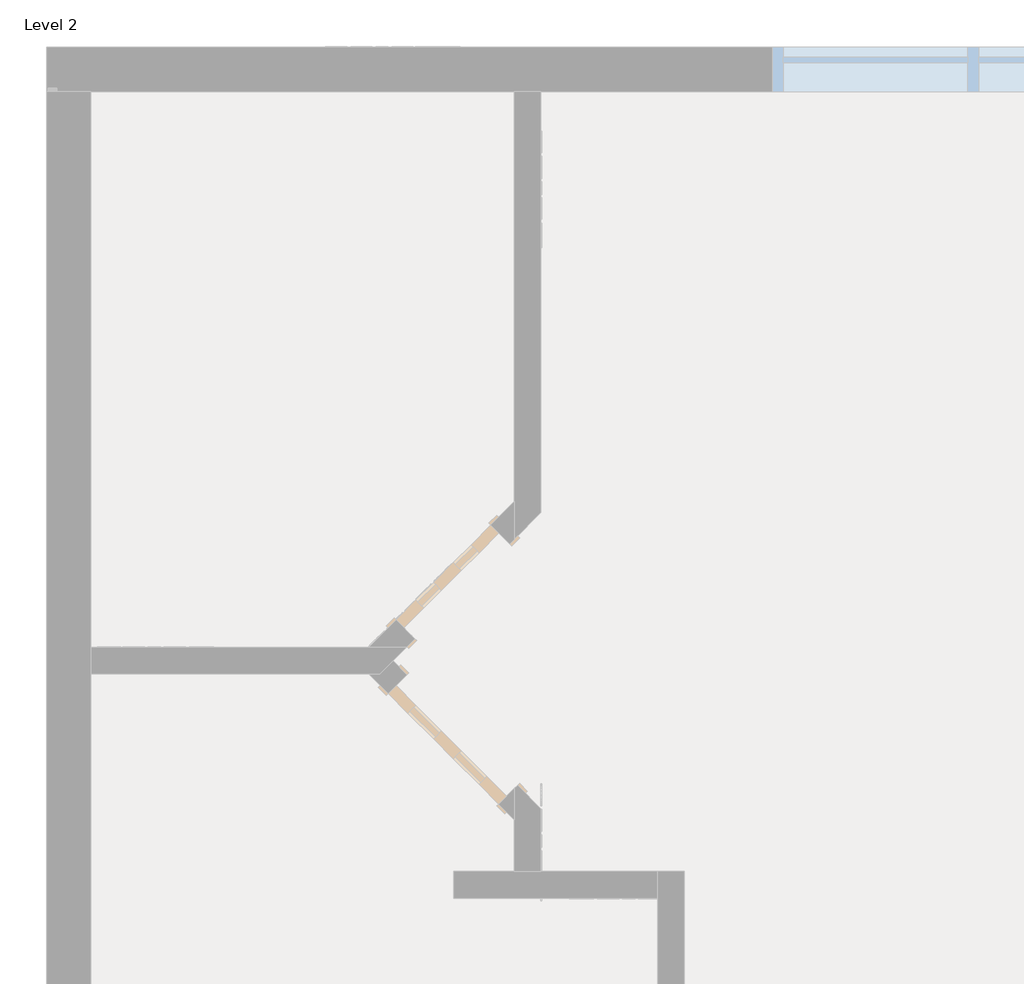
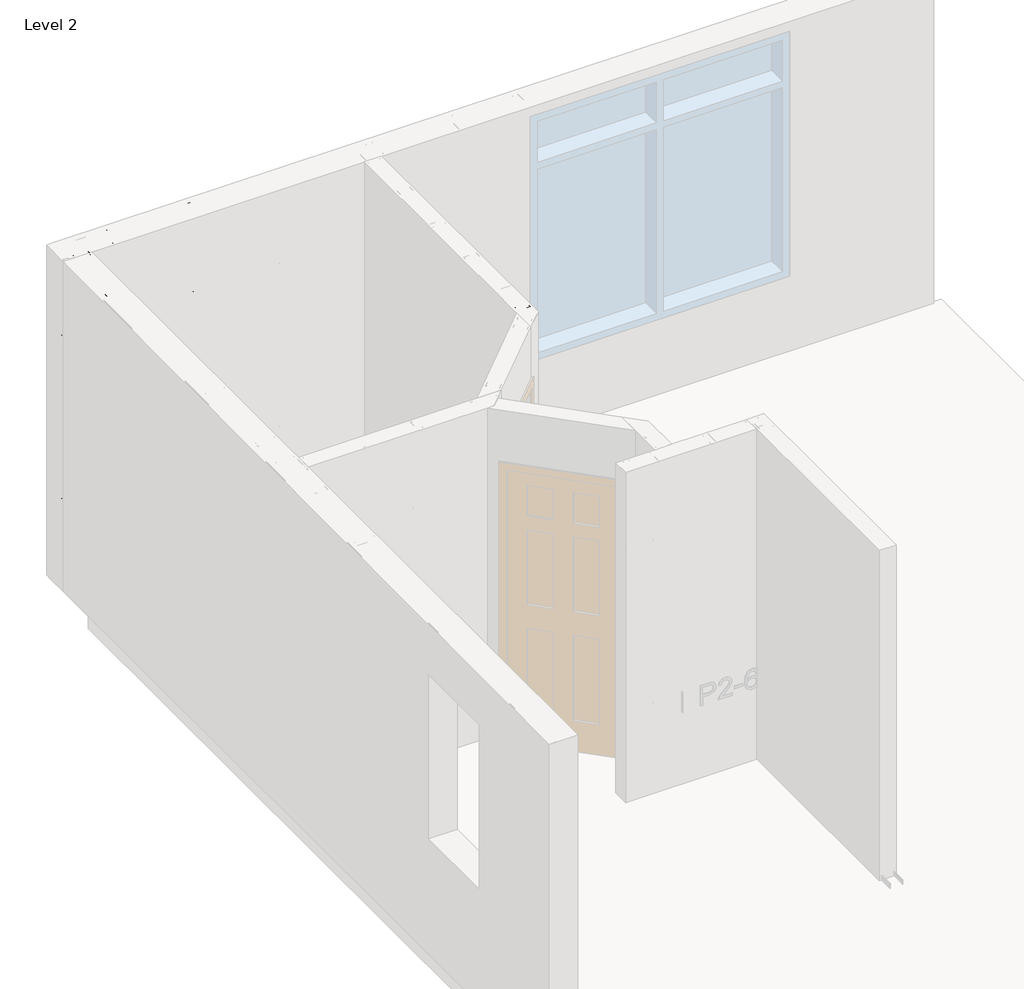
# One storey, part 34 of 46: 6 columns, 1 beam.
"""IFC4 building model written with IfcOpenShell, lengths in millimetres."""

from ifc_helpers import new_model, si_unit, point, frame, origin, place, context, project, spatial, circle_curve, ellipse_curve, trimmed, transform, mapped, element, save
from ifc_brep_helpers import plane_surface, extruded_surface, advanced_brep
from components import beam_350nf150_33_0b14d3bd

model = new_model("IFC4")

# Units and contexts
model_context = context("Model", 3, world=origin())
ifc_project = project(units=[si_unit("LENGTHUNIT", "METRE", prefix="MILLI")], contexts=[model_context])

# Site, building, storey
site = spatial("IfcSite", under=ifc_project)
building = spatial("IfcBuilding", under=site)
storey = spatial("IfcBuildingStorey", under=building, Name="Level 2", Elevation=3060.7)

# Beam
placement = place(None, origin())
beam_350nf150_33_shape = beam_350nf150_33_0b14d3bd(model_context)
element("IfcBeam", 1, ObjectType="BIMSF-SSMA-S : 350NF150-33", at=placement, inside=storey, context=model_context, shape_type="MappedRepresentation", body=[
    mapped(beam_350nf150_33_shape, transform((-13123.9913349, 12934.7090374, 3076.575), x_axis=(0.0, -1.0000000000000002, 0.0), y_axis=(0.0, 0.0, -1.0000000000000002), z_axis=(1.0000000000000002, 0.0, 0.0))),
])

# Columns
element("IfcColumn", 2, ObjectType="BIMSF-SSMA-S-Column : 350NF150-33", at=placement, inside=storey, context=model_context, shape_type="AdvancedBrep", body=[
    advanced_brep(
    [(-13079.5413349, 12004.0658538, 3061.5929687), (-13168.4413349, 12004.0658538, 3061.5929687), (-13168.4413349, 12042.1658538, 3061.5929687), (-13162.7838191, 12042.1658538, 3061.5929687), (-13162.7838191, 12041.283538, 3061.5929687), (-13167.5590191, 12041.283538, 3061.5929687), (-13167.5590191, 12004.9481695, 3061.5929687), (-13080.4236507, 12004.9481695, 3061.5929687), (-13080.4236507, 12041.283538, 3061.5929687), (-13085.1988507, 12041.283538, 3061.5929687), (-13085.1988507, 12042.1658538, 3061.5929687), (-13079.5413349, 12042.1658538, 3061.5929687), (-13079.5413349, 12004.0658538, 5523.6070313), (-13168.4413349, 12004.0658538, 5523.6070313), (-13136.6913349, 12004.0658538, 3671.1929688), (-13111.2913349, 12004.0658538, 3671.1929688), (-13136.6913349, 12004.0658538, 4890.3929688), (-13111.2913349, 12004.0658538, 4890.3929687), (-13168.4413349, 12042.1658538, 5523.6070313), (-13162.7838191, 12042.1658538, 5523.6070313), (-13162.7838191, 12041.283538, 5523.6070313), (-13167.5590191, 12041.283538, 5523.6070313), (-13167.5590191, 12004.9481695, 5523.6070313), (-13080.4236507, 12004.9481695, 5523.6070313), (-13111.2913349, 12004.9481695, 3671.1929688), (-13136.6913349, 12004.9481695, 3671.1929688), (-13111.2913349, 12004.9481695, 4890.3929688), (-13136.6913349, 12004.9481695, 4890.3929688), (-13080.4236507, 12041.283538, 5523.6070313), (-13085.1988507, 12041.283538, 5523.6070313), (-13085.1988507, 12042.1658538, 5523.6070313), (-13079.5413349, 12042.1658538, 5523.6070313)],
    [
        (0, 1),
        (1, 2),
        (2, 3),
        (3, 4),
        (4, 5),
        (5, 6),
        (6, 7),
        (7, 8),
        (8, 9),
        (9, 10),
        (10, 11),
        (11, 0),
        (0, 12),
        (12, 13),
        (13, 1),
        (14, 15, circle_curve(frame((-13123.9913349, 12004.0658538, 3671.1929688), z_axis=(0.0, 1.0, 0.0), x_axis=(-1.0, 0.0, 0.0)), 12.7)),
        (15, 14, circle_curve(frame((-13123.9913349, 12004.0658538, 3671.1929688), z_axis=(0.0, 1.0, 0.0), x_axis=(-1.0, 0.0, 0.0)), 12.7)),
        (16, 17, circle_curve(frame((-13123.9913349, 12004.0658538, 4890.3929687), z_axis=(0.0, 1.0, 0.0), x_axis=(-1.0, 0.0, 0.0)), 12.7)),
        (17, 16, circle_curve(frame((-13123.9913349, 12004.0658538, 4890.3929687), z_axis=(0.0, 1.0, 0.0), x_axis=(-1.0, 0.0, 0.0)), 12.7)),
        (13, 18),
        (18, 2),
        (18, 19),
        (19, 3),
        (19, 20),
        (20, 4),
        (20, 21),
        (21, 5),
        (21, 22),
        (22, 6),
        (22, 23),
        (23, 7),
        (24, 25, circle_curve(frame((-13123.9913349, 12004.9481695, 3671.1929687), z_axis=(0.0, -1.0, 0.0), x_axis=(-1.0, 0.0, 0.0)), 12.7)),
        (25, 24, circle_curve(frame((-13123.9913349, 12004.9481695, 3671.1929687), z_axis=(0.0, -1.0, 0.0), x_axis=(-1.0, 0.0, 0.0)), 12.7)),
        (26, 27, circle_curve(frame((-13123.9913349, 12004.9481695, 4890.3929687), z_axis=(0.0, -1.0, 0.0), x_axis=(-1.0, 0.0, 0.0)), 12.7)),
        (27, 26, circle_curve(frame((-13123.9913349, 12004.9481695, 4890.3929687), z_axis=(0.0, -1.0, 0.0), x_axis=(-1.0, 0.0, 0.0)), 12.7)),
        (23, 28),
        (28, 8),
        (28, 29),
        (29, 9),
        (29, 30),
        (30, 10),
        (30, 31),
        (31, 11),
        (31, 12),
        (24, 15),
        (14, 25),
        (26, 17),
        (16, 27),
    ],
    [
        plane_surface(frame((-13079.5413349, 12004.0658538, 3061.5929687), z_axis=(0.0, 0.0, -1.0), x_axis=(0.0, -1.0, 0.0))),
        plane_surface(frame((-13168.4413349, 12004.0658538, 5523.6070313), z_axis=(0.0, -1.0, 0.0), x_axis=(0.0, 0.0, -1.0))),
        plane_surface(frame((-13168.4413349, 12042.1658538, 5523.6070313), z_axis=(-1.0, 0.0, 0.0), x_axis=(0.0, 0.0, -1.0))),
        plane_surface(frame((-13162.7838191, 12042.1658538, 5523.6070313), z_axis=(0.0, 1.0, 0.0), x_axis=(0.0, 0.0, -1.0))),
        plane_surface(frame((-13162.7838191, 12041.283538, 5523.6070313), z_axis=(1.0, 0.0, 0.0), x_axis=(0.0, 0.0, -1.0))),
        plane_surface(frame((-13167.5590191, 12041.283538, 5523.6070313), z_axis=(0.0, -1.0, 0.0), x_axis=(0.0, 0.0, -1.0))),
        plane_surface(frame((-13167.5590191, 12004.9481695, 5523.6070313), z_axis=(1.0, 0.0, 0.0), x_axis=(0.0, 0.0, -1.0))),
        plane_surface(frame((-13080.4236507, 12004.9481695, 5523.6070313), z_axis=(0.0, 1.0, 0.0), x_axis=(0.0, 0.0, -1.0))),
        plane_surface(frame((-13080.4236507, 12041.283538, 5523.6070313), z_axis=(-1.0, 0.0, 0.0), x_axis=(0.0, 0.0, -1.0))),
        plane_surface(frame((-13085.1988507, 12041.283538, 5523.6070313), z_axis=(0.0, -1.0, 0.0), x_axis=(0.0, 0.0, -1.0))),
        plane_surface(frame((-13085.1988507, 12042.1658538, 5523.6070313), z_axis=(-1.0, 0.0, 0.0), x_axis=(0.0, 0.0, -1.0))),
        plane_surface(frame((-13079.5413349, 12042.1658538, 5523.6070313), z_axis=(0.0, 1.0, 0.0), x_axis=(0.0, 0.0, -1.0))),
        plane_surface(frame((-13079.5413349, 12004.0658538, 5523.6070313), z_axis=(1.0, 0.0, 0.0), x_axis=(0.0, 0.0, -1.0))),
        plane_surface(frame((-13079.5413349, 12004.0658538, 5523.6070313), z_axis=(0.0, 0.0, 1.0), x_axis=(0.0, 1.0, 0.0))),
        extruded_surface(trimmed(ellipse_curve(frame((-13123.9913349, 14485.1299163, 3671.1929688), z_axis=(0.0, -1.0, 0.0), x_axis=(-1.0, 0.0, 0.0)), 12.7, 12.7), [point((-13111.2913349, 14485.1299163, 3671.1929688))], [point((-13136.6913349, 14485.1299163, 3671.1929688))], True, "CARTESIAN"), (0.0, 4924.028125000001, 0.0), 4924.028125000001),
        extruded_surface(trimmed(ellipse_curve(frame((-13123.9913349, 14485.1299163, 3671.1929688), z_axis=(0.0, -1.0, 0.0), x_axis=(-1.0, 0.0, 0.0)), 12.7, 12.7), [point((-13136.6913349, 14485.1299163, 3671.1929688))], [point((-13111.2913349, 14485.1299163, 3671.1929688))], True, "CARTESIAN"), (0.0, 4924.028125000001, 0.0), 4924.028125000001),
        extruded_surface(trimmed(ellipse_curve(frame((-13123.9913349, 14485.1299163, 4890.3929687), z_axis=(0.0, -1.0, 0.0), x_axis=(-1.0, 0.0, 0.0)), 12.7, 12.7), [point((-13111.2913349, 14485.1299163, 4890.3929687))], [point((-13136.6913349, 14485.1299163, 4890.3929687))], True, "CARTESIAN"), (0.0, 4924.028125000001, 0.0), 4924.028125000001),
        extruded_surface(trimmed(ellipse_curve(frame((-13123.9913349, 14485.1299163, 4890.3929687), z_axis=(0.0, -1.0, 0.0), x_axis=(-1.0, 0.0, 0.0)), 12.7, 12.7), [point((-13136.6913349, 14485.1299163, 4890.3929687))], [point((-13111.2913349, 14485.1299163, 4890.3929687))], True, "CARTESIAN"), (0.0, 4924.028125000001, 0.0), 4924.028125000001),
    ],
    [
        (0, [[1, 2, 3, 4, 5, 6, 7, 8, 9, 10, 11, 12]]),
        (1, [[-1, 13, 14, 15], [16, 17], [18, 19]]),
        (2, [[-2, -15, 20, 21]]),
        (3, [[-3, -21, 22, 23]]),
        (4, [[-4, -23, 24, 25]]),
        (5, [[-5, -25, 26, 27]]),
        (6, [[-6, -27, 28, 29]]),
        (7, [[-7, -29, 30, 31], [32, 33], [34, 35]]),
        (8, [[-8, -31, 36, 37]]),
        (9, [[-9, -37, 38, 39]]),
        (10, [[-10, -39, 40, 41]]),
        (11, [[-11, -41, 42, 43]]),
        (12, [[-12, -43, 44, -13]]),
        (13, [[-14, -44, -42, -40, -38, -36, -30, -28, -26, -24, -22, -20]]),
        (14, [[45, -16, 46, -32]]),
        (15, [[-45, -33, -46, -17]]),
        (16, [[47, -18, 48, -34]]),
        (17, [[-47, -35, -48, -19]]),
    ],
),
])
element("IfcColumn", 3, ObjectType="BIMSF-SSMA-S-Column : 550NF150-43", at=placement, inside=storey, context=model_context, shape_type="AdvancedBrep", body=[
    advanced_brep(
    [(-15263.9413349, 13865.352221, 3061.5929687), (-15263.9413349, 14005.052221, 3061.5929687), (-15225.8413349, 14005.052221, 3061.5929687), (-15225.8413349, 13999.1273367, 3061.5929687), (-15226.9910191, 13999.1273367, 3061.5929687), (-15226.9910191, 14003.9025367, 3061.5929687), (-15262.7916507, 14003.9025367, 3061.5929687), (-15262.7916507, 13866.5019052, 3061.5929687), (-15226.9910191, 13866.5019052, 3061.5929687), (-15226.9910191, 13871.2771052, 3061.5929687), (-15225.8413349, 13871.2771052, 3061.5929687), (-15225.8413349, 13865.352221, 3061.5929687), (-15263.9413349, 13865.352221, 5523.6070313), (-15263.9413349, 14005.052221, 5523.6070313), (-15263.9413349, 13947.902221, 3671.1929688), (-15263.9413349, 13922.502221, 3671.1929688), (-15263.9413349, 13947.902221, 4890.3929687), (-15263.9413349, 13922.502221, 4890.3929687), (-15225.8413349, 14005.052221, 5523.6070313), (-15225.8413349, 13999.1273367, 5523.6070313), (-15226.9910191, 13999.1273367, 5523.6070313), (-15226.9910191, 14003.9025367, 5523.6070313), (-15262.7916507, 14003.9025367, 5523.6070313), (-15262.7916507, 13866.5019052, 5523.6070313), (-15262.7916507, 13922.502221, 3671.1929688), (-15262.7916507, 13947.902221, 3671.1929688), (-15262.7916507, 13922.502221, 4890.3929687), (-15262.7916507, 13947.902221, 4890.3929687), (-15226.9910191, 13866.5019052, 5523.6070313), (-15226.9910191, 13871.2771052, 5523.6070313), (-15225.8413349, 13871.2771052, 5523.6070313), (-15225.8413349, 13865.352221, 5523.6070313)],
    [
        (0, 1),
        (1, 2),
        (2, 3),
        (3, 4),
        (4, 5),
        (5, 6),
        (6, 7),
        (7, 8),
        (8, 9),
        (9, 10),
        (10, 11),
        (11, 0),
        (0, 12),
        (12, 13),
        (13, 1),
        (14, 15, circle_curve(frame((-15263.9413349, 13935.202221, 3671.1929688), z_axis=(1.0, 0.0, 0.0), x_axis=(0.0, 1.0, 0.0)), 12.7)),
        (15, 14, circle_curve(frame((-15263.9413349, 13935.202221, 3671.1929688), z_axis=(1.0, 0.0, 0.0), x_axis=(0.0, 1.0, 0.0)), 12.7)),
        (16, 17, circle_curve(frame((-15263.9413349, 13935.202221, 4890.3929687), z_axis=(1.0, 0.0, 0.0), x_axis=(0.0, 1.0, 0.0)), 12.7)),
        (17, 16, circle_curve(frame((-15263.9413349, 13935.202221, 4890.3929687), z_axis=(1.0, 0.0, 0.0), x_axis=(0.0, 1.0, 0.0)), 12.7)),
        (13, 18),
        (18, 2),
        (18, 19),
        (19, 3),
        (19, 20),
        (20, 4),
        (20, 21),
        (21, 5),
        (21, 22),
        (22, 6),
        (22, 23),
        (23, 7),
        (24, 25, circle_curve(frame((-15262.7916507, 13935.202221, 3671.1929687), z_axis=(-1.0, 0.0, 0.0), x_axis=(0.0, 1.0, 0.0)), 12.7)),
        (25, 24, circle_curve(frame((-15262.7916507, 13935.202221, 3671.1929687), z_axis=(-1.0, 0.0, 0.0), x_axis=(0.0, 1.0, 0.0)), 12.7)),
        (26, 27, circle_curve(frame((-15262.7916507, 13935.202221, 4890.3929687), z_axis=(-1.0, 0.0, 0.0), x_axis=(0.0, 1.0, 0.0)), 12.7)),
        (27, 26, circle_curve(frame((-15262.7916507, 13935.202221, 4890.3929687), z_axis=(-1.0, 0.0, 0.0), x_axis=(0.0, 1.0, 0.0)), 12.7)),
        (23, 28),
        (28, 8),
        (28, 29),
        (29, 9),
        (29, 30),
        (30, 10),
        (30, 31),
        (31, 11),
        (31, 12),
        (24, 15),
        (14, 25),
        (26, 17),
        (16, 27),
    ],
    [
        plane_surface(frame((-15263.9413349, 13865.352221, 3061.5929687), z_axis=(0.0, 0.0, -1.0), x_axis=(-1.0, 0.0, 0.0))),
        plane_surface(frame((-15263.9413349, 14005.052221, 5523.6070313), z_axis=(-1.0, 0.0, 0.0), x_axis=(0.0, 0.0, -1.0))),
        plane_surface(frame((-15225.8413349, 14005.052221, 5523.6070313), z_axis=(0.0, 1.0, 0.0), x_axis=(0.0, 0.0, -1.0))),
        plane_surface(frame((-15225.8413349, 13999.1273367, 5523.6070313), z_axis=(1.0, 0.0, 0.0), x_axis=(0.0, 0.0, -1.0))),
        plane_surface(frame((-15226.9910191, 13999.1273367, 5523.6070313), z_axis=(0.0, -1.0, 0.0), x_axis=(0.0, 0.0, -1.0))),
        plane_surface(frame((-15226.9910191, 14003.9025367, 5523.6070313), z_axis=(-1.0, 0.0, 0.0), x_axis=(0.0, 0.0, -1.0))),
        plane_surface(frame((-15262.7916507, 14003.9025367, 5523.6070313), z_axis=(0.0, -1.0, 0.0), x_axis=(0.0, 0.0, -1.0))),
        plane_surface(frame((-15262.7916507, 13866.5019052, 5523.6070313), z_axis=(1.0, 0.0, 0.0), x_axis=(0.0, 0.0, -1.0))),
        plane_surface(frame((-15226.9910191, 13866.5019052, 5523.6070313), z_axis=(0.0, 1.0, 0.0), x_axis=(0.0, 0.0, -1.0))),
        plane_surface(frame((-15226.9910191, 13871.2771052, 5523.6070313), z_axis=(-1.0, 0.0, 0.0), x_axis=(0.0, 0.0, -1.0))),
        plane_surface(frame((-15225.8413349, 13871.2771052, 5523.6070313), z_axis=(0.0, 1.0, 0.0), x_axis=(0.0, 0.0, -1.0))),
        plane_surface(frame((-15225.8413349, 13865.352221, 5523.6070313), z_axis=(1.0, 0.0, 0.0), x_axis=(0.0, 0.0, -1.0))),
        plane_surface(frame((-15263.9413349, 13865.352221, 5523.6070313), z_axis=(0.0, -1.0, 0.0), x_axis=(0.0, 0.0, -1.0))),
        plane_surface(frame((-15263.9413349, 13865.352221, 5523.6070313), z_axis=(0.0, 0.0, 1.0), x_axis=(1.0, 0.0, 0.0))),
        extruded_surface(trimmed(ellipse_curve(frame((-12782.8772724, 13935.202221, 3671.1929688), z_axis=(-1.0, 0.0, 0.0), x_axis=(0.0, 1.0, 0.0)), 12.7, 12.7), [point((-12782.8772724, 13922.502221, 3671.1929688))], [point((-12782.8772724, 13947.902221, 3671.1929688))], True, "CARTESIAN"), (4924.028124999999, 0.0, 0.0), 4924.028124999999),
        extruded_surface(trimmed(ellipse_curve(frame((-12782.8772724, 13935.202221, 3671.1929688), z_axis=(-1.0, 0.0, 0.0), x_axis=(0.0, 1.0, 0.0)), 12.7, 12.7), [point((-12782.8772724, 13947.902221, 3671.1929688))], [point((-12782.8772724, 13922.502221, 3671.1929688))], True, "CARTESIAN"), (4924.028124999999, 0.0, 0.0), 4924.028124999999),
        extruded_surface(trimmed(ellipse_curve(frame((-12782.8772724, 13935.202221, 4890.3929687), z_axis=(-1.0, 0.0, 0.0), x_axis=(0.0, 1.0, 0.0)), 12.7, 12.7), [point((-12782.8772724, 13922.502221, 4890.3929687))], [point((-12782.8772724, 13947.902221, 4890.3929687))], True, "CARTESIAN"), (4924.028124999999, 0.0, 0.0), 4924.028124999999),
        extruded_surface(trimmed(ellipse_curve(frame((-12782.8772724, 13935.202221, 4890.3929687), z_axis=(-1.0, 0.0, 0.0), x_axis=(0.0, 1.0, 0.0)), 12.7, 12.7), [point((-12782.8772724, 13947.902221, 4890.3929687))], [point((-12782.8772724, 13922.502221, 4890.3929687))], True, "CARTESIAN"), (4924.028124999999, 0.0, 0.0), 4924.028124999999),
    ],
    [
        (0, [[1, 2, 3, 4, 5, 6, 7, 8, 9, 10, 11, 12]]),
        (1, [[-1, 13, 14, 15], [16, 17], [18, 19]]),
        (2, [[-2, -15, 20, 21]]),
        (3, [[-3, -21, 22, 23]]),
        (4, [[-4, -23, 24, 25]]),
        (5, [[-5, -25, 26, 27]]),
        (6, [[-6, -27, 28, 29]]),
        (7, [[-7, -29, 30, 31], [32, 33], [34, 35]]),
        (8, [[-8, -31, 36, 37]]),
        (9, [[-9, -37, 38, 39]]),
        (10, [[-10, -39, 40, 41]]),
        (11, [[-11, -41, 42, 43]]),
        (12, [[-12, -43, 44, -13]]),
        (13, [[-14, -44, -42, -40, -38, -36, -30, -28, -26, -24, -22, -20]]),
        (14, [[45, -16, 46, -32]]),
        (15, [[-45, -33, -46, -17]]),
        (16, [[47, -18, 48, -34]]),
        (17, [[-47, -35, -48, -19]]),
    ],
),
])
element("IfcColumn", 4, ObjectType="BIMSF-SSMA-S-Column : 550NF150-43", at=placement, inside=storey, context=model_context, shape_type="AdvancedBrep", body=[
    advanced_brep(
    [(-14339.5202411, 13865.352221, 3061.5929687), (-14339.5202411, 14005.052221, 3061.5929687), (-14301.4202411, 14005.052221, 3061.5929687), (-14301.4202411, 13999.1273367, 3061.5929687), (-14302.5699253, 13999.1273367, 3061.5929687), (-14302.5699253, 14003.9025367, 3061.5929687), (-14338.3705569, 14003.9025367, 3061.5929687), (-14338.3705569, 13866.5019052, 3061.5929687), (-14302.5699253, 13866.5019052, 3061.5929687), (-14302.5699253, 13871.2771052, 3061.5929687), (-14301.4202411, 13871.2771052, 3061.5929687), (-14301.4202411, 13865.352221, 3061.5929687), (-14339.5202411, 13865.352221, 5523.6070313), (-14339.5202411, 14005.052221, 5523.6070313), (-14339.5202411, 13947.902221, 3671.1929688), (-14339.5202411, 13922.502221, 3671.1929688), (-14339.5202411, 13947.902221, 4890.3929687), (-14339.5202411, 13922.502221, 4890.3929687), (-14301.4202411, 14005.052221, 5523.6070313), (-14301.4202411, 13999.1273367, 5523.6070313), (-14302.5699253, 13999.1273367, 5523.6070313), (-14302.5699253, 14003.9025367, 5523.6070313), (-14338.3705569, 14003.9025367, 5523.6070313), (-14338.3705569, 13866.5019052, 5523.6070313), (-14338.3705569, 13922.502221, 3671.1929688), (-14338.3705569, 13947.902221, 3671.1929688), (-14338.3705569, 13922.502221, 4890.3929687), (-14338.3705569, 13947.902221, 4890.3929687), (-14302.5699253, 13866.5019052, 5523.6070313), (-14302.5699253, 13871.2771052, 5523.6070313), (-14301.4202411, 13871.2771052, 5523.6070313), (-14301.4202411, 13865.352221, 5523.6070313)],
    [
        (0, 1),
        (1, 2),
        (2, 3),
        (3, 4),
        (4, 5),
        (5, 6),
        (6, 7),
        (7, 8),
        (8, 9),
        (9, 10),
        (10, 11),
        (11, 0),
        (0, 12),
        (12, 13),
        (13, 1),
        (14, 15, circle_curve(frame((-14339.5202411, 13935.202221, 3671.1929687), z_axis=(1.0, 0.0, 0.0), x_axis=(0.0, 1.0, 0.0)), 12.7)),
        (15, 14, circle_curve(frame((-14339.5202411, 13935.202221, 3671.1929687), z_axis=(1.0, 0.0, 0.0), x_axis=(0.0, 1.0, 0.0)), 12.7)),
        (16, 17, circle_curve(frame((-14339.5202411, 13935.202221, 4890.3929687), z_axis=(1.0, 0.0, 0.0), x_axis=(0.0, 1.0, 0.0)), 12.7)),
        (17, 16, circle_curve(frame((-14339.5202411, 13935.202221, 4890.3929687), z_axis=(1.0, 0.0, 0.0), x_axis=(0.0, 1.0, 0.0)), 12.7)),
        (13, 18),
        (18, 2),
        (18, 19),
        (19, 3),
        (19, 20),
        (20, 4),
        (20, 21),
        (21, 5),
        (21, 22),
        (22, 6),
        (22, 23),
        (23, 7),
        (24, 25, circle_curve(frame((-14338.3705569, 13935.202221, 3671.1929687), z_axis=(-1.0, 0.0, 0.0), x_axis=(0.0, 1.0, 0.0)), 12.7)),
        (25, 24, circle_curve(frame((-14338.3705569, 13935.202221, 3671.1929687), z_axis=(-1.0, 0.0, 0.0), x_axis=(0.0, 1.0, 0.0)), 12.7)),
        (26, 27, circle_curve(frame((-14338.3705569, 13935.202221, 4890.3929687), z_axis=(-1.0, 0.0, 0.0), x_axis=(0.0, 1.0, 0.0)), 12.7)),
        (27, 26, circle_curve(frame((-14338.3705569, 13935.202221, 4890.3929687), z_axis=(-1.0, 0.0, 0.0), x_axis=(0.0, 1.0, 0.0)), 12.7)),
        (23, 28),
        (28, 8),
        (28, 29),
        (29, 9),
        (29, 30),
        (30, 10),
        (30, 31),
        (31, 11),
        (31, 12),
        (24, 15),
        (14, 25),
        (26, 17),
        (16, 27),
    ],
    [
        plane_surface(frame((-14339.5202411, 13865.352221, 3061.5929687), z_axis=(0.0, 0.0, -1.0), x_axis=(-1.0, 0.0, 0.0))),
        plane_surface(frame((-14339.5202411, 14005.052221, 5523.6070313), z_axis=(-1.0, 0.0, 0.0), x_axis=(0.0, 0.0, -1.0))),
        plane_surface(frame((-14301.4202411, 14005.052221, 5523.6070313), z_axis=(0.0, 1.0, 0.0), x_axis=(0.0, 0.0, -1.0))),
        plane_surface(frame((-14301.4202411, 13999.1273367, 5523.6070313), z_axis=(1.0, 0.0, 0.0), x_axis=(0.0, 0.0, -1.0))),
        plane_surface(frame((-14302.5699253, 13999.1273367, 5523.6070313), z_axis=(0.0, -1.0, 0.0), x_axis=(0.0, 0.0, -1.0))),
        plane_surface(frame((-14302.5699253, 14003.9025367, 5523.6070313), z_axis=(-1.0, 0.0, 0.0), x_axis=(0.0, 0.0, -1.0))),
        plane_surface(frame((-14338.3705569, 14003.9025367, 5523.6070313), z_axis=(0.0, -1.0, 0.0), x_axis=(0.0, 0.0, -1.0))),
        plane_surface(frame((-14338.3705569, 13866.5019052, 5523.6070313), z_axis=(1.0, 0.0, 0.0), x_axis=(0.0, 0.0, -1.0))),
        plane_surface(frame((-14302.5699253, 13866.5019052, 5523.6070313), z_axis=(0.0, 1.0, 0.0), x_axis=(0.0, 0.0, -1.0))),
        plane_surface(frame((-14302.5699253, 13871.2771052, 5523.6070313), z_axis=(-1.0, 0.0, 0.0), x_axis=(0.0, 0.0, -1.0))),
        plane_surface(frame((-14301.4202411, 13871.2771052, 5523.6070313), z_axis=(0.0, 1.0, 0.0), x_axis=(0.0, 0.0, -1.0))),
        plane_surface(frame((-14301.4202411, 13865.352221, 5523.6070313), z_axis=(1.0, 0.0, 0.0), x_axis=(0.0, 0.0, -1.0))),
        plane_surface(frame((-14339.5202411, 13865.352221, 5523.6070313), z_axis=(0.0, -1.0, 0.0), x_axis=(0.0, 0.0, -1.0))),
        plane_surface(frame((-14339.5202411, 13865.352221, 5523.6070313), z_axis=(0.0, 0.0, 1.0), x_axis=(1.0, 0.0, 0.0))),
        extruded_surface(trimmed(ellipse_curve(frame((-11858.4561786, 13935.202221, 3671.1929688), z_axis=(-1.0, 0.0, 0.0), x_axis=(0.0, 1.0, 0.0)), 12.7, 12.7), [point((-11858.4561786, 13922.502221, 3671.1929688))], [point((-11858.4561786, 13947.902221, 3671.1929688))], True, "CARTESIAN"), (4924.028125, 0.0, 0.0), 4924.028125),
        extruded_surface(trimmed(ellipse_curve(frame((-11858.4561786, 13935.202221, 3671.1929688), z_axis=(-1.0, 0.0, 0.0), x_axis=(0.0, 1.0, 0.0)), 12.7, 12.7), [point((-11858.4561786, 13947.902221, 3671.1929688))], [point((-11858.4561786, 13922.502221, 3671.1929688))], True, "CARTESIAN"), (4924.028125, 0.0, 0.0), 4924.028125),
        extruded_surface(trimmed(ellipse_curve(frame((-11858.4561786, 13935.202221, 4890.3929687), z_axis=(-1.0, 0.0, 0.0), x_axis=(0.0, 1.0, 0.0)), 12.7, 12.7), [point((-11858.4561786, 13922.502221, 4890.3929687))], [point((-11858.4561786, 13947.902221, 4890.3929687))], True, "CARTESIAN"), (4924.028125, 0.0, 0.0), 4924.028125),
        extruded_surface(trimmed(ellipse_curve(frame((-11858.4561786, 13935.202221, 4890.3929687), z_axis=(-1.0, 0.0, 0.0), x_axis=(0.0, 1.0, 0.0)), 12.7, 12.7), [point((-11858.4561786, 13947.902221, 4890.3929687))], [point((-11858.4561786, 13922.502221, 4890.3929687))], True, "CARTESIAN"), (4924.028125, 0.0, 0.0), 4924.028125),
    ],
    [
        (0, [[1, 2, 3, 4, 5, 6, 7, 8, 9, 10, 11, 12]]),
        (1, [[-1, 13, 14, 15], [16, 17], [18, 19]]),
        (2, [[-2, -15, 20, 21]]),
        (3, [[-3, -21, 22, 23]]),
        (4, [[-4, -23, 24, 25]]),
        (5, [[-5, -25, 26, 27]]),
        (6, [[-6, -27, 28, 29]]),
        (7, [[-7, -29, 30, 31], [32, 33], [34, 35]]),
        (8, [[-8, -31, 36, 37]]),
        (9, [[-9, -37, 38, 39]]),
        (10, [[-10, -39, 40, 41]]),
        (11, [[-11, -41, 42, 43]]),
        (12, [[-12, -43, 44, -13]]),
        (13, [[-14, -44, -42, -40, -38, -36, -30, -28, -26, -24, -22, -20]]),
        (14, [[45, -16, 46, -32]]),
        (15, [[-45, -33, -46, -17]]),
        (16, [[47, -18, 48, -34]]),
        (17, [[-47, -35, -48, -19]]),
    ],
),
])
element("IfcColumn", 5, ObjectType="BIMSF-SSMA-S-Column : 550NF150-43", at=placement, inside=storey, context=model_context, shape_type="AdvancedBrep", body=[
    advanced_brep(
    [(-14949.1202411, 13865.352221, 3061.5929687), (-14949.1202411, 14005.052221, 3061.5929687), (-14911.0202411, 14005.052221, 3061.5929687), (-14911.0202411, 13999.1273367, 3061.5929687), (-14912.1699253, 13999.1273367, 3061.5929687), (-14912.1699253, 14003.9025367, 3061.5929687), (-14947.9705569, 14003.9025367, 3061.5929687), (-14947.9705569, 13866.5019052, 3061.5929687), (-14912.1699253, 13866.5019052, 3061.5929687), (-14912.1699253, 13871.2771052, 3061.5929687), (-14911.0202411, 13871.2771052, 3061.5929687), (-14911.0202411, 13865.352221, 3061.5929687), (-14949.1202411, 13865.352221, 5523.6070313), (-14949.1202411, 14005.052221, 5523.6070313), (-14949.1202411, 13947.902221, 3671.1929688), (-14949.1202411, 13922.502221, 3671.1929688), (-14949.1202411, 13947.902221, 4890.3929687), (-14949.1202411, 13922.502221, 4890.3929687), (-14911.0202411, 14005.052221, 5523.6070313), (-14911.0202411, 13999.1273367, 5523.6070313), (-14912.1699253, 13999.1273367, 5523.6070313), (-14912.1699253, 14003.9025367, 5523.6070313), (-14947.9705569, 14003.9025367, 5523.6070313), (-14947.9705569, 13866.5019052, 5523.6070313), (-14947.9705569, 13922.502221, 3671.1929688), (-14947.9705569, 13947.902221, 3671.1929688), (-14947.9705569, 13922.502221, 4890.3929687), (-14947.9705569, 13947.902221, 4890.3929687), (-14912.1699253, 13866.5019052, 5523.6070313), (-14912.1699253, 13871.2771052, 5523.6070313), (-14911.0202411, 13871.2771052, 5523.6070313), (-14911.0202411, 13865.352221, 5523.6070313)],
    [
        (0, 1),
        (1, 2),
        (2, 3),
        (3, 4),
        (4, 5),
        (5, 6),
        (6, 7),
        (7, 8),
        (8, 9),
        (9, 10),
        (10, 11),
        (11, 0),
        (0, 12),
        (12, 13),
        (13, 1),
        (14, 15, circle_curve(frame((-14949.1202411, 13935.202221, 3671.1929687), z_axis=(1.0, 0.0, 0.0), x_axis=(0.0, 1.0, 0.0)), 12.7)),
        (15, 14, circle_curve(frame((-14949.1202411, 13935.202221, 3671.1929687), z_axis=(1.0, 0.0, 0.0), x_axis=(0.0, 1.0, 0.0)), 12.7)),
        (16, 17, circle_curve(frame((-14949.1202411, 13935.202221, 4890.3929687), z_axis=(1.0, 0.0, 0.0), x_axis=(0.0, 1.0, 0.0)), 12.7)),
        (17, 16, circle_curve(frame((-14949.1202411, 13935.202221, 4890.3929687), z_axis=(1.0, 0.0, 0.0), x_axis=(0.0, 1.0, 0.0)), 12.7)),
        (13, 18),
        (18, 2),
        (18, 19),
        (19, 3),
        (19, 20),
        (20, 4),
        (20, 21),
        (21, 5),
        (21, 22),
        (22, 6),
        (22, 23),
        (23, 7),
        (24, 25, circle_curve(frame((-14947.9705569, 13935.202221, 3671.1929687), z_axis=(-1.0, 0.0, 0.0), x_axis=(0.0, 1.0, 0.0)), 12.7)),
        (25, 24, circle_curve(frame((-14947.9705569, 13935.202221, 3671.1929687), z_axis=(-1.0, 0.0, 0.0), x_axis=(0.0, 1.0, 0.0)), 12.7)),
        (26, 27, circle_curve(frame((-14947.9705569, 13935.202221, 4890.3929687), z_axis=(-1.0, 0.0, 0.0), x_axis=(0.0, 1.0, 0.0)), 12.7)),
        (27, 26, circle_curve(frame((-14947.9705569, 13935.202221, 4890.3929687), z_axis=(-1.0, 0.0, 0.0), x_axis=(0.0, 1.0, 0.0)), 12.7)),
        (23, 28),
        (28, 8),
        (28, 29),
        (29, 9),
        (29, 30),
        (30, 10),
        (30, 31),
        (31, 11),
        (31, 12),
        (24, 15),
        (14, 25),
        (26, 17),
        (16, 27),
    ],
    [
        plane_surface(frame((-14949.1202411, 13865.352221, 3061.5929687), z_axis=(0.0, 0.0, -1.0), x_axis=(-1.0, 0.0, 0.0))),
        plane_surface(frame((-14949.1202411, 14005.052221, 5523.6070313), z_axis=(-1.0, 0.0, 0.0), x_axis=(0.0, 0.0, -1.0))),
        plane_surface(frame((-14911.0202411, 14005.052221, 5523.6070313), z_axis=(0.0, 1.0, 0.0), x_axis=(0.0, 0.0, -1.0))),
        plane_surface(frame((-14911.0202411, 13999.1273367, 5523.6070313), z_axis=(1.0, 0.0, 0.0), x_axis=(0.0, 0.0, -1.0))),
        plane_surface(frame((-14912.1699253, 13999.1273367, 5523.6070313), z_axis=(0.0, -1.0, 0.0), x_axis=(0.0, 0.0, -1.0))),
        plane_surface(frame((-14912.1699253, 14003.9025367, 5523.6070313), z_axis=(-1.0, 0.0, 0.0), x_axis=(0.0, 0.0, -1.0))),
        plane_surface(frame((-14947.9705569, 14003.9025367, 5523.6070313), z_axis=(0.0, -1.0, 0.0), x_axis=(0.0, 0.0, -1.0))),
        plane_surface(frame((-14947.9705569, 13866.5019052, 5523.6070313), z_axis=(1.0, 0.0, 0.0), x_axis=(0.0, 0.0, -1.0))),
        plane_surface(frame((-14912.1699253, 13866.5019052, 5523.6070313), z_axis=(0.0, 1.0, 0.0), x_axis=(0.0, 0.0, -1.0))),
        plane_surface(frame((-14912.1699253, 13871.2771052, 5523.6070313), z_axis=(-1.0, 0.0, 0.0), x_axis=(0.0, 0.0, -1.0))),
        plane_surface(frame((-14911.0202411, 13871.2771052, 5523.6070313), z_axis=(0.0, 1.0, 0.0), x_axis=(0.0, 0.0, -1.0))),
        plane_surface(frame((-14911.0202411, 13865.352221, 5523.6070313), z_axis=(1.0, 0.0, 0.0), x_axis=(0.0, 0.0, -1.0))),
        plane_surface(frame((-14949.1202411, 13865.352221, 5523.6070313), z_axis=(0.0, -1.0, 0.0), x_axis=(0.0, 0.0, -1.0))),
        plane_surface(frame((-14949.1202411, 13865.352221, 5523.6070313), z_axis=(0.0, 0.0, 1.0), x_axis=(1.0, 0.0, 0.0))),
        extruded_surface(trimmed(ellipse_curve(frame((-12468.0561786, 13935.202221, 3671.1929688), z_axis=(-1.0, 0.0, 0.0), x_axis=(0.0, 1.0, 0.0)), 12.7, 12.7), [point((-12468.0561786, 13922.502221, 3671.1929688))], [point((-12468.0561786, 13947.902221, 3671.1929688))], True, "CARTESIAN"), (4924.028125, 0.0, 0.0), 4924.028125),
        extruded_surface(trimmed(ellipse_curve(frame((-12468.0561786, 13935.202221, 3671.1929688), z_axis=(-1.0, 0.0, 0.0), x_axis=(0.0, 1.0, 0.0)), 12.7, 12.7), [point((-12468.0561786, 13947.902221, 3671.1929688))], [point((-12468.0561786, 13922.502221, 3671.1929688))], True, "CARTESIAN"), (4924.028125, 0.0, 0.0), 4924.028125),
        extruded_surface(trimmed(ellipse_curve(frame((-12468.0561786, 13935.202221, 4890.3929687), z_axis=(-1.0, 0.0, 0.0), x_axis=(0.0, 1.0, 0.0)), 12.7, 12.7), [point((-12468.0561786, 13922.502221, 4890.3929687))], [point((-12468.0561786, 13947.902221, 4890.3929687))], True, "CARTESIAN"), (4924.028125, 0.0, 0.0), 4924.028125),
        extruded_surface(trimmed(ellipse_curve(frame((-12468.0561786, 13935.202221, 4890.3929687), z_axis=(-1.0, 0.0, 0.0), x_axis=(0.0, 1.0, 0.0)), 12.7, 12.7), [point((-12468.0561786, 13947.902221, 4890.3929687))], [point((-12468.0561786, 13922.502221, 4890.3929687))], True, "CARTESIAN"), (4924.028125, 0.0, 0.0), 4924.028125),
    ],
    [
        (0, [[1, 2, 3, 4, 5, 6, 7, 8, 9, 10, 11, 12]]),
        (1, [[-1, 13, 14, 15], [16, 17], [18, 19]]),
        (2, [[-2, -15, 20, 21]]),
        (3, [[-3, -21, 22, 23]]),
        (4, [[-4, -23, 24, 25]]),
        (5, [[-5, -25, 26, 27]]),
        (6, [[-6, -27, 28, 29]]),
        (7, [[-7, -29, 30, 31], [32, 33], [34, 35]]),
        (8, [[-8, -31, 36, 37]]),
        (9, [[-9, -37, 38, 39]]),
        (10, [[-10, -39, 40, 41]]),
        (11, [[-11, -41, 42, 43]]),
        (12, [[-12, -43, 44, -13]]),
        (13, [[-14, -44, -42, -40, -38, -36, -30, -28, -26, -24, -22, -20]]),
        (14, [[45, -16, 46, -32]]),
        (15, [[-45, -33, -46, -17]]),
        (16, [[47, -18, 48, -34]]),
        (17, [[-47, -35, -48, -19]]),
    ],
),
])
element("IfcColumn", 6, ObjectType="BIMSF-SSMA-S-Column : 550NF150-43", at=placement, inside=storey, context=model_context, shape_type="AdvancedBrep", body=[
    advanced_brep(
    [(-15263.9413349, 13865.352221, 3061.5929687), (-15124.2413349, 13865.352221, 3061.5929687), (-15124.2413349, 13827.252221, 3061.5929687), (-15130.1662191, 13827.252221, 3061.5929687), (-15130.1662191, 13828.4019052, 3061.5929687), (-15125.3910191, 13828.4019052, 3061.5929687), (-15125.3910191, 13864.2025367, 3061.5929687), (-15262.7916507, 13864.2025367, 3061.5929687), (-15262.7916507, 13828.4019052, 3061.5929687), (-15258.0164507, 13828.4019052, 3061.5929687), (-15258.0164507, 13827.252221, 3061.5929687), (-15263.9413349, 13827.252221, 3061.5929687), (-15263.9413349, 13865.352221, 5523.6070313), (-15124.2413349, 13865.352221, 5523.6070313), (-15181.3913349, 13865.352221, 3671.1929688), (-15206.7913349, 13865.352221, 3671.1929688), (-15181.3913349, 13865.352221, 4890.3929687), (-15206.7913349, 13865.352221, 4890.3929687), (-15124.2413349, 13827.252221, 5523.6070313), (-15130.1662191, 13827.252221, 5523.6070313), (-15130.1662191, 13828.4019052, 5523.6070313), (-15125.3910191, 13828.4019052, 5523.6070313), (-15125.3910191, 13864.2025367, 5523.6070313), (-15262.7916507, 13864.2025367, 5523.6070313), (-15206.7913349, 13864.2025367, 3671.1929688), (-15181.3913349, 13864.2025367, 3671.1929688), (-15206.7913349, 13864.2025367, 4890.3929687), (-15181.3913349, 13864.2025367, 4890.3929687), (-15262.7916507, 13828.4019052, 5523.6070313), (-15258.0164507, 13828.4019052, 5523.6070313), (-15258.0164507, 13827.252221, 5523.6070313), (-15263.9413349, 13827.252221, 5523.6070313)],
    [
        (0, 1),
        (1, 2),
        (2, 3),
        (3, 4),
        (4, 5),
        (5, 6),
        (6, 7),
        (7, 8),
        (8, 9),
        (9, 10),
        (10, 11),
        (11, 0),
        (0, 12),
        (12, 13),
        (13, 1),
        (14, 15, circle_curve(frame((-15194.0913349, 13865.352221, 3671.1929688), z_axis=(0.0, -1.0, 0.0), x_axis=(1.0, 0.0, 0.0)), 12.7)),
        (15, 14, circle_curve(frame((-15194.0913349, 13865.352221, 3671.1929688), z_axis=(0.0, -1.0, 0.0), x_axis=(1.0, 0.0, 0.0)), 12.7)),
        (16, 17, circle_curve(frame((-15194.0913349, 13865.352221, 4890.3929687), z_axis=(0.0, -1.0, 0.0), x_axis=(1.0, 0.0, 0.0)), 12.7)),
        (17, 16, circle_curve(frame((-15194.0913349, 13865.352221, 4890.3929687), z_axis=(0.0, -1.0, 0.0), x_axis=(1.0, 0.0, 0.0)), 12.7)),
        (13, 18),
        (18, 2),
        (18, 19),
        (19, 3),
        (19, 20),
        (20, 4),
        (20, 21),
        (21, 5),
        (21, 22),
        (22, 6),
        (22, 23),
        (23, 7),
        (24, 25, circle_curve(frame((-15194.0913349, 13864.2025367, 3671.1929687), z_axis=(0.0, 1.0, 0.0), x_axis=(1.0, 0.0, 0.0)), 12.7)),
        (25, 24, circle_curve(frame((-15194.0913349, 13864.2025367, 3671.1929687), z_axis=(0.0, 1.0, 0.0), x_axis=(1.0, 0.0, 0.0)), 12.7)),
        (26, 27, circle_curve(frame((-15194.0913349, 13864.2025367, 4890.3929687), z_axis=(0.0, 1.0, 0.0), x_axis=(1.0, 0.0, 0.0)), 12.7)),
        (27, 26, circle_curve(frame((-15194.0913349, 13864.2025367, 4890.3929687), z_axis=(0.0, 1.0, 0.0), x_axis=(1.0, 0.0, 0.0)), 12.7)),
        (23, 28),
        (28, 8),
        (28, 29),
        (29, 9),
        (29, 30),
        (30, 10),
        (30, 31),
        (31, 11),
        (31, 12),
        (24, 15),
        (14, 25),
        (26, 17),
        (16, 27),
    ],
    [
        plane_surface(frame((-15263.9413349, 13865.352221, 3061.5929687), z_axis=(0.0, 0.0, -1.0), x_axis=(0.0, 1.0, 0.0))),
        plane_surface(frame((-15124.2413349, 13865.352221, 5523.6070313), z_axis=(0.0, 1.0, 0.0), x_axis=(0.0, 0.0, -1.0))),
        plane_surface(frame((-15124.2413349, 13827.252221, 5523.6070313), z_axis=(1.0, 0.0, 0.0), x_axis=(0.0, 0.0, -1.0))),
        plane_surface(frame((-15130.1662191, 13827.252221, 5523.6070313), z_axis=(0.0, -1.0, 0.0), x_axis=(0.0, 0.0, -1.0))),
        plane_surface(frame((-15130.1662191, 13828.4019052, 5523.6070313), z_axis=(-1.0, 0.0, 0.0), x_axis=(0.0, 0.0, -1.0))),
        plane_surface(frame((-15125.3910191, 13828.4019052, 5523.6070313), z_axis=(0.0, 1.0, 0.0), x_axis=(0.0, 0.0, -1.0))),
        plane_surface(frame((-15125.3910191, 13864.2025367, 5523.6070313), z_axis=(-1.0, 0.0, 0.0), x_axis=(0.0, 0.0, -1.0))),
        plane_surface(frame((-15262.7916507, 13864.2025367, 5523.6070313), z_axis=(0.0, -1.0, 0.0), x_axis=(0.0, 0.0, -1.0))),
        plane_surface(frame((-15262.7916507, 13828.4019052, 5523.6070313), z_axis=(1.0, 0.0, 0.0), x_axis=(0.0, 0.0, -1.0))),
        plane_surface(frame((-15258.0164507, 13828.4019052, 5523.6070313), z_axis=(0.0, 1.0, 0.0), x_axis=(0.0, 0.0, -1.0))),
        plane_surface(frame((-15258.0164507, 13827.252221, 5523.6070313), z_axis=(1.0, 0.0, 0.0), x_axis=(0.0, 0.0, -1.0))),
        plane_surface(frame((-15263.9413349, 13827.252221, 5523.6070313), z_axis=(0.0, -1.0, 0.0), x_axis=(0.0, 0.0, -1.0))),
        plane_surface(frame((-15263.9413349, 13865.352221, 5523.6070313), z_axis=(-1.0, 0.0, 0.0), x_axis=(0.0, 0.0, -1.0))),
        plane_surface(frame((-15263.9413349, 13865.352221, 5523.6070313), z_axis=(0.0, 0.0, 1.0), x_axis=(0.0, -1.0, 0.0))),
        extruded_surface(trimmed(ellipse_curve(frame((-15194.0913349, 11384.2881585, 3671.1929688), z_axis=(0.0, 1.0, 0.0), x_axis=(1.0, 0.0, 0.0)), 12.7, 12.7), [point((-15206.7913349, 11384.2881585, 3671.1929688))], [point((-15181.3913349, 11384.2881585, 3671.1929688))], True, "CARTESIAN"), (0.0, -4924.028125, 0.0), 4924.028125),
        extruded_surface(trimmed(ellipse_curve(frame((-15194.0913349, 11384.2881585, 3671.1929688), z_axis=(0.0, 1.0, 0.0), x_axis=(1.0, 0.0, 0.0)), 12.7, 12.7), [point((-15181.3913349, 11384.2881585, 3671.1929688))], [point((-15206.7913349, 11384.2881585, 3671.1929688))], True, "CARTESIAN"), (0.0, -4924.028125, 0.0), 4924.028125),
        extruded_surface(trimmed(ellipse_curve(frame((-15194.0913349, 11384.2881585, 4890.3929687), z_axis=(0.0, 1.0, 0.0), x_axis=(1.0, 0.0, 0.0)), 12.7, 12.7), [point((-15206.7913349, 11384.2881585, 4890.3929687))], [point((-15181.3913349, 11384.2881585, 4890.3929687))], True, "CARTESIAN"), (0.0, -4924.028125, 0.0), 4924.028125),
        extruded_surface(trimmed(ellipse_curve(frame((-15194.0913349, 11384.2881585, 4890.3929687), z_axis=(0.0, 1.0, 0.0), x_axis=(1.0, 0.0, 0.0)), 12.7, 12.7), [point((-15181.3913349, 11384.2881585, 4890.3929687))], [point((-15206.7913349, 11384.2881585, 4890.3929687))], True, "CARTESIAN"), (0.0, -4924.028125, 0.0), 4924.028125),
    ],
    [
        (0, [[1, 2, 3, 4, 5, 6, 7, 8, 9, 10, 11, 12]]),
        (1, [[-1, 13, 14, 15], [16, 17], [18, 19]]),
        (2, [[-2, -15, 20, 21]]),
        (3, [[-3, -21, 22, 23]]),
        (4, [[-4, -23, 24, 25]]),
        (5, [[-5, -25, 26, 27]]),
        (6, [[-6, -27, 28, 29]]),
        (7, [[-7, -29, 30, 31], [32, 33], [34, 35]]),
        (8, [[-8, -31, 36, 37]]),
        (9, [[-9, -37, 38, 39]]),
        (10, [[-10, -39, 40, 41]]),
        (11, [[-11, -41, 42, 43]]),
        (12, [[-12, -43, 44, -13]]),
        (13, [[-14, -44, -42, -40, -38, -36, -30, -28, -26, -24, -22, -20]]),
        (14, [[45, -16, 46, -32]]),
        (15, [[-45, -33, -46, -17]]),
        (16, [[47, -18, 48, -34]]),
        (17, [[-47, -35, -48, -19]]),
    ],
),
])
element("IfcColumn", 7, ObjectType="BIMSF-SSMA-S-Column : 550NF150-43", at=placement, inside=storey, context=model_context, shape_type="AdvancedBrep", body=[
    advanced_brep(
    [(-15124.2413349, 13375.0627774, 3061.5929687), (-15263.9413349, 13375.0627774, 3061.5929687), (-15263.9413349, 13413.1627774, 3061.5929687), (-15258.0164507, 13413.1627774, 3061.5929687), (-15258.0164507, 13412.0130931, 3061.5929687), (-15262.7916507, 13412.0130931, 3061.5929687), (-15262.7916507, 13376.2124616, 3061.5929687), (-15125.3910191, 13376.2124616, 3061.5929687), (-15125.3910191, 13412.0130931, 3061.5929687), (-15130.1662191, 13412.0130931, 3061.5929687), (-15130.1662191, 13413.1627774, 3061.5929687), (-15124.2413349, 13413.1627774, 3061.5929687), (-15124.2413349, 13375.0627774, 5523.6070313), (-15263.9413349, 13375.0627774, 5523.6070313), (-15206.7913349, 13375.0627774, 3671.1929688), (-15181.3913349, 13375.0627774, 3671.1929688), (-15206.7913349, 13375.0627774, 4890.3929688), (-15181.3913349, 13375.0627774, 4890.3929688), (-15263.9413349, 13413.1627774, 5523.6070313), (-15258.0164507, 13413.1627774, 5523.6070313), (-15258.0164507, 13412.0130931, 5523.6070313), (-15262.7916507, 13412.0130931, 5523.6070313), (-15262.7916507, 13376.2124616, 5523.6070313), (-15125.3910191, 13376.2124616, 5523.6070313), (-15181.3913349, 13376.2124616, 3671.1929688), (-15206.7913349, 13376.2124616, 3671.1929688), (-15181.3913349, 13376.2124616, 4890.3929688), (-15206.7913349, 13376.2124616, 4890.3929688), (-15125.3910191, 13412.0130931, 5523.6070313), (-15130.1662191, 13412.0130931, 5523.6070313), (-15130.1662191, 13413.1627774, 5523.6070313), (-15124.2413349, 13413.1627774, 5523.6070313)],
    [
        (0, 1),
        (1, 2),
        (2, 3),
        (3, 4),
        (4, 5),
        (5, 6),
        (6, 7),
        (7, 8),
        (8, 9),
        (9, 10),
        (10, 11),
        (11, 0),
        (0, 12),
        (12, 13),
        (13, 1),
        (14, 15, circle_curve(frame((-15194.0913349, 13375.0627774, 3671.1929687), z_axis=(0.0, 1.0, 0.0), x_axis=(-1.0, 0.0, 0.0)), 12.7)),
        (15, 14, circle_curve(frame((-15194.0913349, 13375.0627774, 3671.1929687), z_axis=(0.0, 1.0, 0.0), x_axis=(-1.0, 0.0, 0.0)), 12.7)),
        (16, 17, circle_curve(frame((-15194.0913349, 13375.0627774, 4890.3929687), z_axis=(0.0, 1.0, 0.0), x_axis=(-1.0, 0.0, 0.0)), 12.7)),
        (17, 16, circle_curve(frame((-15194.0913349, 13375.0627774, 4890.3929687), z_axis=(0.0, 1.0, 0.0), x_axis=(-1.0, 0.0, 0.0)), 12.7)),
        (13, 18),
        (18, 2),
        (18, 19),
        (19, 3),
        (19, 20),
        (20, 4),
        (20, 21),
        (21, 5),
        (21, 22),
        (22, 6),
        (22, 23),
        (23, 7),
        (24, 25, circle_curve(frame((-15194.0913349, 13376.2124616, 3671.1929687), z_axis=(0.0, -1.0, 0.0), x_axis=(-1.0, 0.0, 0.0)), 12.7)),
        (25, 24, circle_curve(frame((-15194.0913349, 13376.2124616, 3671.1929687), z_axis=(0.0, -1.0, 0.0), x_axis=(-1.0, 0.0, 0.0)), 12.7)),
        (26, 27, circle_curve(frame((-15194.0913349, 13376.2124616, 4890.3929687), z_axis=(0.0, -1.0, 0.0), x_axis=(-1.0, 0.0, 0.0)), 12.7)),
        (27, 26, circle_curve(frame((-15194.0913349, 13376.2124616, 4890.3929687), z_axis=(0.0, -1.0, 0.0), x_axis=(-1.0, 0.0, 0.0)), 12.7)),
        (23, 28),
        (28, 8),
        (28, 29),
        (29, 9),
        (29, 30),
        (30, 10),
        (30, 31),
        (31, 11),
        (31, 12),
        (24, 15),
        (14, 25),
        (26, 17),
        (16, 27),
    ],
    [
        plane_surface(frame((-15124.2413349, 13375.0627774, 3061.5929687), z_axis=(0.0, 0.0, -1.0), x_axis=(0.0, -1.0, 0.0))),
        plane_surface(frame((-15263.9413349, 13375.0627774, 5523.6070313), z_axis=(0.0, -1.0, 0.0), x_axis=(0.0, 0.0, -1.0))),
        plane_surface(frame((-15263.9413349, 13413.1627774, 5523.6070313), z_axis=(-1.0, 0.0, 0.0), x_axis=(0.0, 0.0, -1.0))),
        plane_surface(frame((-15258.0164507, 13413.1627774, 5523.6070313), z_axis=(0.0, 1.0, 0.0), x_axis=(0.0, 0.0, -1.0))),
        plane_surface(frame((-15258.0164507, 13412.0130931, 5523.6070313), z_axis=(1.0, 0.0, 0.0), x_axis=(0.0, 0.0, -1.0))),
        plane_surface(frame((-15262.7916507, 13412.0130931, 5523.6070313), z_axis=(0.0, -1.0, 0.0), x_axis=(0.0, 0.0, -1.0))),
        plane_surface(frame((-15262.7916507, 13376.2124616, 5523.6070313), z_axis=(1.0, 0.0, 0.0), x_axis=(0.0, 0.0, -1.0))),
        plane_surface(frame((-15125.3910191, 13376.2124616, 5523.6070313), z_axis=(0.0, 1.0, 0.0), x_axis=(0.0, 0.0, -1.0))),
        plane_surface(frame((-15125.3910191, 13412.0130931, 5523.6070313), z_axis=(-1.0, 0.0, 0.0), x_axis=(0.0, 0.0, -1.0))),
        plane_surface(frame((-15130.1662191, 13412.0130931, 5523.6070313), z_axis=(0.0, -1.0, 0.0), x_axis=(0.0, 0.0, -1.0))),
        plane_surface(frame((-15130.1662191, 13413.1627774, 5523.6070313), z_axis=(-1.0, 0.0, 0.0), x_axis=(0.0, 0.0, -1.0))),
        plane_surface(frame((-15124.2413349, 13413.1627774, 5523.6070313), z_axis=(0.0, 1.0, 0.0), x_axis=(0.0, 0.0, -1.0))),
        plane_surface(frame((-15124.2413349, 13375.0627774, 5523.6070313), z_axis=(1.0, 0.0, 0.0), x_axis=(0.0, 0.0, -1.0))),
        plane_surface(frame((-15124.2413349, 13375.0627774, 5523.6070313), z_axis=(0.0, 0.0, 1.0), x_axis=(0.0, 1.0, 0.0))),
        extruded_surface(trimmed(ellipse_curve(frame((-15194.0913349, 15856.1268399, 3671.1929688), z_axis=(0.0, -1.0, 0.0), x_axis=(-1.0, 0.0, 0.0)), 12.7, 12.7), [point((-15181.3913349, 15856.1268399, 3671.1929688))], [point((-15206.7913349, 15856.1268399, 3671.1929688))], True, "CARTESIAN"), (0.0, 4924.028125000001, 0.0), 4924.028125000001),
        extruded_surface(trimmed(ellipse_curve(frame((-15194.0913349, 15856.1268399, 3671.1929688), z_axis=(0.0, -1.0, 0.0), x_axis=(-1.0, 0.0, 0.0)), 12.7, 12.7), [point((-15206.7913349, 15856.1268399, 3671.1929688))], [point((-15181.3913349, 15856.1268399, 3671.1929688))], True, "CARTESIAN"), (0.0, 4924.028125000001, 0.0), 4924.028125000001),
        extruded_surface(trimmed(ellipse_curve(frame((-15194.0913349, 15856.1268399, 4890.3929687), z_axis=(0.0, -1.0, 0.0), x_axis=(-1.0, 0.0, 0.0)), 12.7, 12.7), [point((-15181.3913349, 15856.1268399, 4890.3929687))], [point((-15206.7913349, 15856.1268399, 4890.3929687))], True, "CARTESIAN"), (0.0, 4924.028125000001, 0.0), 4924.028125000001),
        extruded_surface(trimmed(ellipse_curve(frame((-15194.0913349, 15856.1268399, 4890.3929687), z_axis=(0.0, -1.0, 0.0), x_axis=(-1.0, 0.0, 0.0)), 12.7, 12.7), [point((-15206.7913349, 15856.1268399, 4890.3929687))], [point((-15181.3913349, 15856.1268399, 4890.3929687))], True, "CARTESIAN"), (0.0, 4924.028125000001, 0.0), 4924.028125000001),
    ],
    [
        (0, [[1, 2, 3, 4, 5, 6, 7, 8, 9, 10, 11, 12]]),
        (1, [[-1, 13, 14, 15], [16, 17], [18, 19]]),
        (2, [[-2, -15, 20, 21]]),
        (3, [[-3, -21, 22, 23]]),
        (4, [[-4, -23, 24, 25]]),
        (5, [[-5, -25, 26, 27]]),
        (6, [[-6, -27, 28, 29]]),
        (7, [[-7, -29, 30, 31], [32, 33], [34, 35]]),
        (8, [[-8, -31, 36, 37]]),
        (9, [[-9, -37, 38, 39]]),
        (10, [[-10, -39, 40, 41]]),
        (11, [[-11, -41, 42, 43]]),
        (12, [[-12, -43, 44, -13]]),
        (13, [[-14, -44, -42, -40, -38, -36, -30, -28, -26, -24, -22, -20]]),
        (14, [[45, -16, 46, -32]]),
        (15, [[-45, -33, -46, -17]]),
        (16, [[47, -18, 48, -34]]),
        (17, [[-47, -35, -48, -19]]),
    ],
),
])

save(model, "model.ifc")
